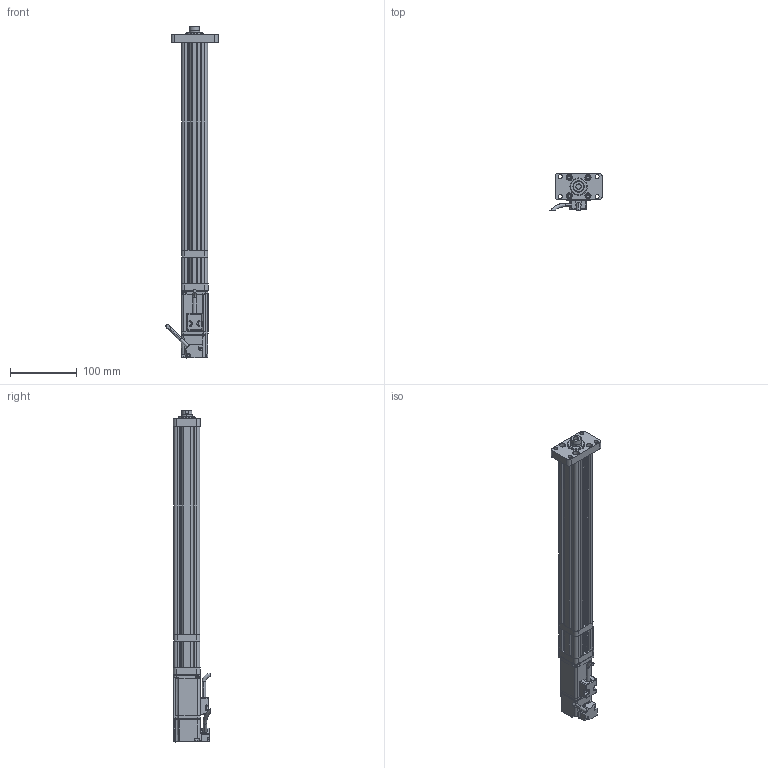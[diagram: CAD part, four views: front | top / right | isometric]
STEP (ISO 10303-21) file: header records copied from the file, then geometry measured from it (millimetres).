
FILE_DESCRIPTION (( 'STEP AP214' ), '1' );
FILE_NAME ('039-S250-D02-A-M3-C2-2.STEP', '2021-03-02T05:28:38', ( '' ), ( '' ), 'SwSTEP 2.0', 'SolidWorks 2018', '' );
FILE_SCHEMA (( 'AUTOMOTIVE_DESIGN' ));
Length unit declared in the file: millimetre
Products named in the file (8): 039-S250-D02-A-M3-C2-2; CMC039-DJZ; CMC039-AZB; CMC039-DT; ECMA-CX0401ES-40框號系列機種-100W低慣量系列; CMC039-FL1; CMC039-GT; CMC039-ZLLJB
Assembly tree (7 placements, depth 2):
  039-S250-D02-A-M3-C2-2
    CMC039-GT
    CMC039-DT
    CMC039-ZLLJB
    CMC039-DJZ
    ECMA-CX0401ES-40框號系列機種-100W低慣量系列
    CMC039-AZB
    CMC039-FL1
Bounding box: 77.84 x 55.39 x 495.6 mm (x, y, z)
Volume: 515410.7 mm3; surface area: 170035.1 mm2
Topology: 7 solids, 15 shells, 713 faces, 1880 edges, 1181 vertices
Faces by surface type: cylinder 298, plane 292, bspline 84, cone 39
Entity records: 28208 total; most frequent: CARTESIAN_POINT 11266, ORIENTED_EDGE 3694, DIRECTION 3033, EDGE_CURVE 1847, VERTEX_POINT 1181, AXIS2_PLACEMENT_3D 1035, VECTOR 963, LINE 963
